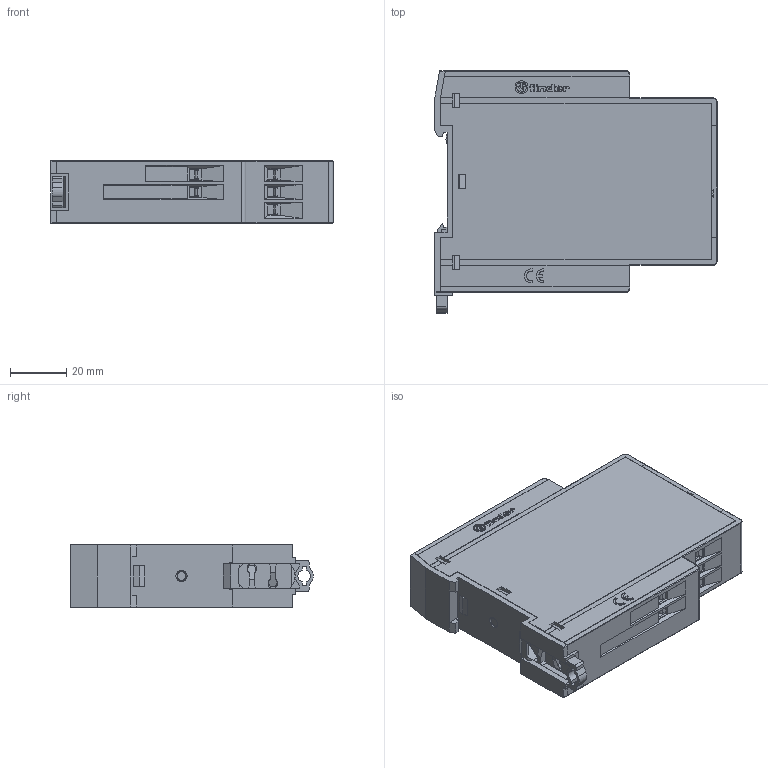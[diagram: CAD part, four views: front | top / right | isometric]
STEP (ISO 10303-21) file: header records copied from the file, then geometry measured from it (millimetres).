
FILE_DESCRIPTION(/* description */ ('Unknown'),/* implementation_level */ '2;1');
FILE_NAME(/* name */ '8391',/* time_stamp */ '2016-12-05T15:06:06+01:00',/* author */ ('Unknown'),/* organization */ ('Unknown'),/* preprocessor_version */ 'ST-DEVELOPER v16.7',/* originating_system */ 'DEX',/* authorisation */ $);
FILE_SCHEMA (('TECHNICAL_DATA_PACKAGING','AUTOMOTIVE_DESIGN {1 0 10303 214 3 1 1}'));
Products named in the file (1): Complessivo 83_91
Bounding box: 100.3 x 86.25 x 22.5 mm (x, y, z)
Surface area: 30080.6 mm2 (no closed solid volume)
Topology: 0 solids, 115 shells, 1603 faces, 6562 edges, 5050 vertices
Faces by surface type: plane 1390, cylinder 110, cone 49, torus 24, sphere 16, bspline 14
Full cylindrical faces by diameter (mm): 3 x2, 4.566 x2, 5.1 x8
Entity records: 68055 total; most frequent: CARTESIAN_POINT 15089, DIRECTION 10122, ORIENTED_EDGE 9182, EDGE_CURVE 6522, LINE 5810, VECTOR 5810, VERTEX_POINT 5035, AXIS2_PLACEMENT_3D 2156
